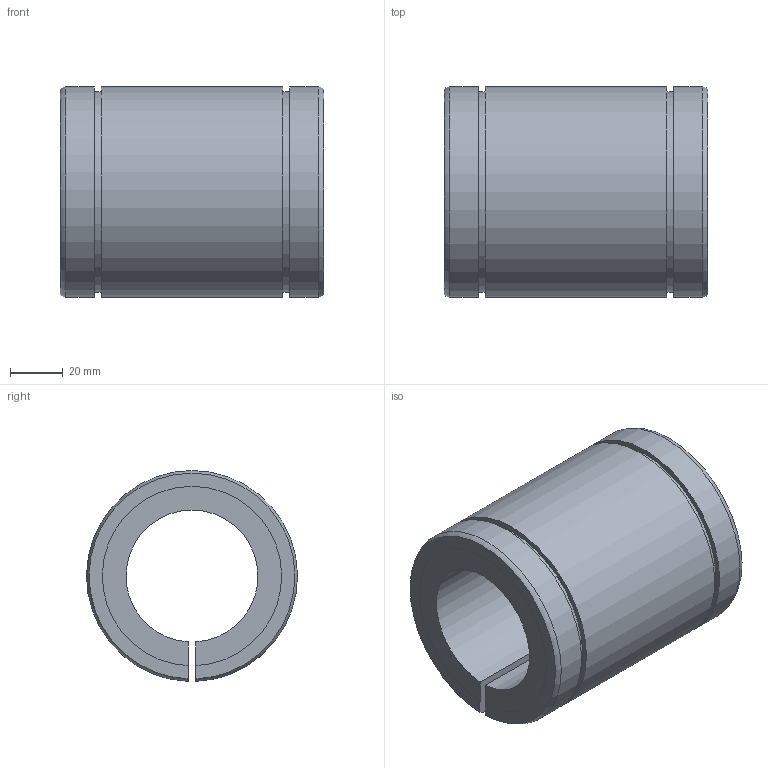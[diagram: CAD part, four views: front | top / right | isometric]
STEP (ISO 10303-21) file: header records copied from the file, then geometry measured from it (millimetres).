
FILE_DESCRIPTION((''),'2;1');
FILE_NAME('D:\製品 (図面)\カタログ用3D\リニアベアリング関連\STEP形式\L-ADJ\L50-ADJ.stp','2010-06-02T17:38:29',('Tsuchiya'),(''),'Autodesk Inventor 10','Autodesk Inventor 10','');
FILE_SCHEMA(('AUTOMOTIVE_DESIGN { 1 0 10303 214 1 1 1 1 }'));
Length unit declared in the file: millimetre
Products named in the file (1): L50-ADJ
Bounding box: 100 x 79.99 x 79.97 mm (x, y, z)
Volume: 298531.8 mm3; surface area: 50753.8 mm2
Topology: 1 solids, 1 shells, 20 faces, 54 edges, 36 vertices
Faces by surface type: plane 10, cylinder 8, torus 2
Entity records: 693 total; most frequent: CARTESIAN_POINT 153, DIRECTION 110, ORIENTED_EDGE 108, EDGE_CURVE 54, AXIS2_PLACEMENT_3D 39, VERTEX_POINT 36, VECTOR 32, LINE 32
